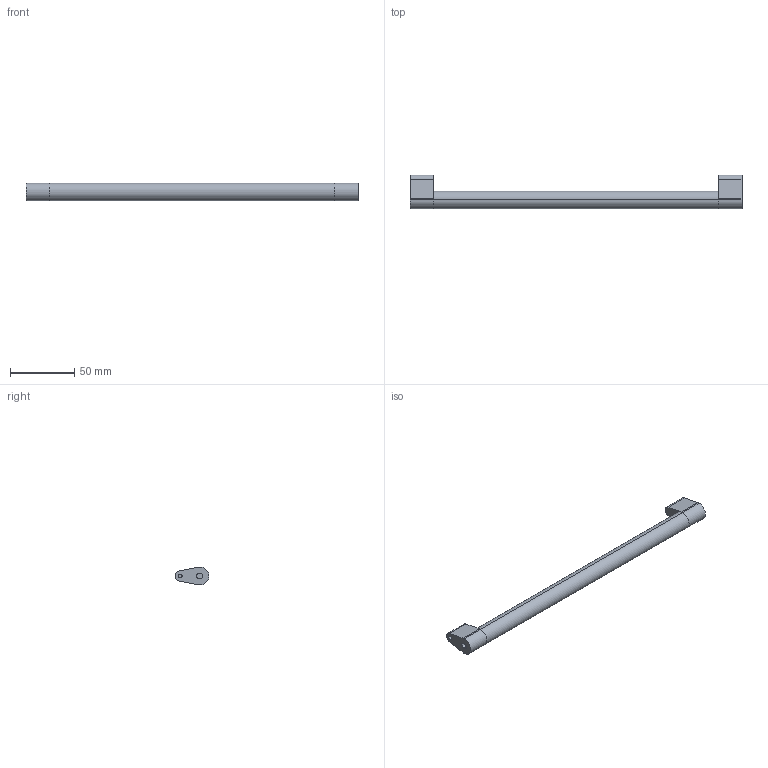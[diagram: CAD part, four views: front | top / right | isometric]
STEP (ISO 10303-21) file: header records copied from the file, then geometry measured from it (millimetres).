
FILE_DESCRIPTION (( 'STEP AP214' ), '1' );
FILE_NAME ('_Synchronisationseinheit Nova Pro KAB350_S19.step', '2010-07-08T13:58:40', ( 'grass' ), ( '' ), 'SwSTEP 2.0', 'SolidWorks 2010', '' );
FILE_SCHEMA (( 'AUTOMOTIVE_DESIGN' ));
Length unit declared in the file: millimetre
Products named in the file (1): _Synchronisationseinheit Nova Pro KAB350_S19
Bounding box: 259 x 26.5 x 14 mm (x, y, z)
Volume: 43556.8 mm3; surface area: 14238.4 mm2
Topology: 3 solids, 3 shells, 36 faces, 78 edges, 52 vertices
Faces by surface type: cylinder 18, plane 18
Entity records: 1050 total; most frequent: DIRECTION 188, CARTESIAN_POINT 167, ORIENTED_EDGE 156, EDGE_CURVE 78, AXIS2_PLACEMENT_3D 73, VERTEX_POINT 52, VECTOR 42, LINE 42
